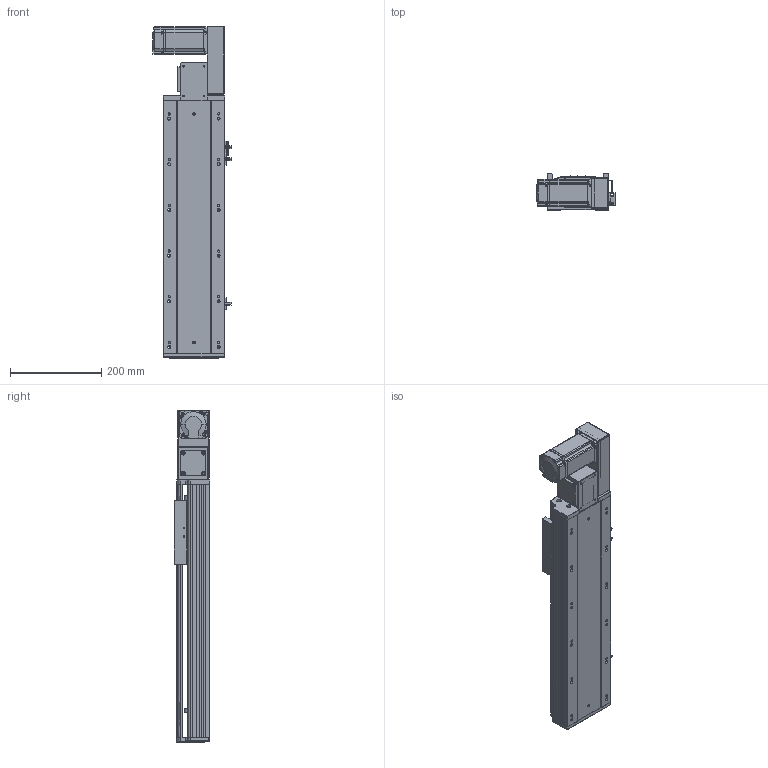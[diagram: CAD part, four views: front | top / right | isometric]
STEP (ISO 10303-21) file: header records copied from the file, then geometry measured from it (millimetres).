
FILE_DESCRIPTION (( 'STEP AP203' ), '1' );
FILE_NAME ('RY140-T-300-RK.SLDASM_300.step', '2021-03-01T06:44:33', ( '盈信电脑' ), ( '东莞市道滘镇水果街19号' ), 'SwSTEP 2.0', 'SolidWorks 2012', '' );
FILE_SCHEMA (( 'CONFIG_CONTROL_DESIGN' ));
Products named in the file (17): RY120-T主同步轮轴承压盖; RY120-T蹟翐M4; 15; RY140-T-300-RK.SLDASM_300; RY140-T翋肮謫裔啣; RY140-T萇儂假蚾啣; RY140-T萇儂欶; RY120-T肮祭湍揤踡輸2; RY140-T翋肮祭謫盓傅釱; 滅袉蝶18-10; RY120-T肮祭湍揤踡輸1; RY120外置感应片(140共用）; RY140綴裔啣; RY140-T-300-DR倰第奻裔啣; 覜茼ん672; RY140-T-300-DR倰第菁釱; RY140肮祭謫臏賑輸
Assembly tree (22 placements, depth 2):
  RY140-T-300-RK.SLDASM_300
    RY140-T-300-DR倰第菁釱
    RY140肮祭謫臏賑輸
    RY140-T-300-DR倰第奻裔啣
    RY140綴裔啣
    覜茼ん672  x3
    RY120外置感应片(140共用）
    RY120-T肮祭湍揤踡輸2
    RY120-T肮祭湍揤踡輸1
    RY140-T翋肮祭謫盓傅釱
    滅袉蝶18-10  x2
    RY140-T翋肮謫裔啣
    RY140-T萇儂欶
    RY140-T萇儂假蚾啣
    RY120-T蹟翐M4  x4
    15
    RY120-T主同步轮轴承压盖
Bounding box: 170.7 x 78 x 726.5 mm (x, y, z)
Volume: 2320283.4 mm3; surface area: 841031.1 mm2
Topology: 22 solids, 22 shells, 2563 faces, 7009 edges, 4526 vertices
Faces by surface type: plane 1385, cylinder 904, cone 174, bspline 100
Entity records: 81086 total; most frequent: CARTESIAN_POINT 19917, ORIENTED_EDGE 12594, DIRECTION 11901, EDGE_CURVE 6297, VERTEX_POINT 4125, VECTOR 4089, LINE 4089, AXIS2_PLACEMENT_3D 3906
